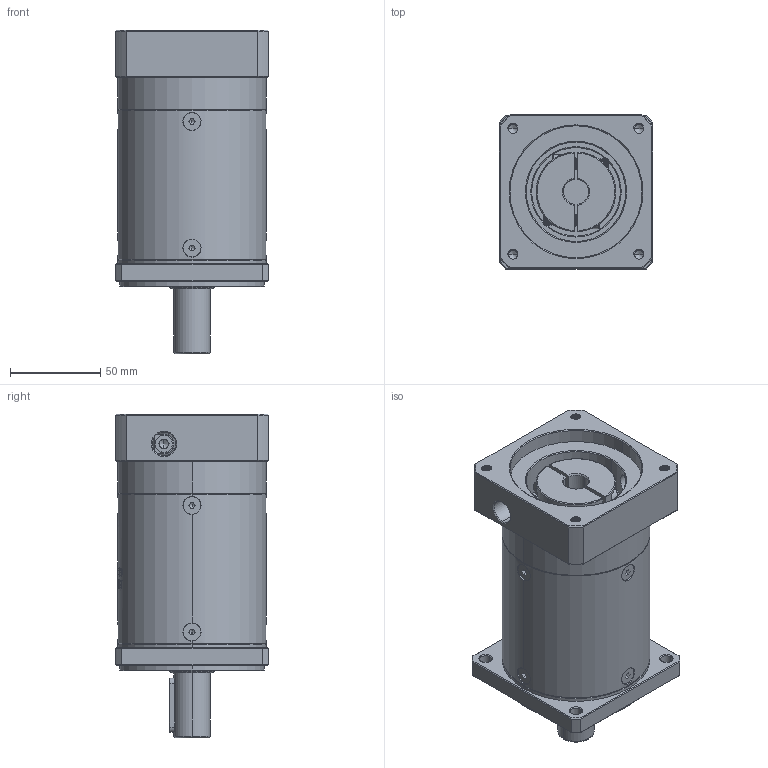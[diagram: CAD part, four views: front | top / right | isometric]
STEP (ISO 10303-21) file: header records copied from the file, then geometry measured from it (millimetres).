
FILE_DESCRIPTION (( 'STEP AP214' ), '1' );
FILE_NAME ('ZF080-D20-L3-P2-14-73-69.6X69.6-M6.step', '2023-08-19T05:30:05', ( '' ), ( '' ), 'SwSTEP 2.0', 'SolidWorks 2016', '' );
FILE_SCHEMA (( 'AUTOMOTIVE_DESIGN' ));
Length unit declared in the file: millimetre
Products named in the file (1): ZF080-D20-L3-P2-14-73-69.6X69.6-M6
Bounding box: 85 x 85 x 179 mm (x, y, z)
Volume: 749275.3 mm3; surface area: 98802 mm2
Topology: 13 solids, 13 shells, 2231 faces, 5838 edges, 3706 vertices
Faces by surface type: plane 1071, bspline 394, cylinder 390, cone 339, torus 37
Entity records: 119065 total; most frequent: CARTESIAN_POINT 44706, ORIENTED_EDGE 11616, DIRECTION 8616, EDGE_CURVE 5808, VERTEX_POINT 3706, LINE 3088, VECTOR 3088, AXIS2_PLACEMENT_3D 2764
